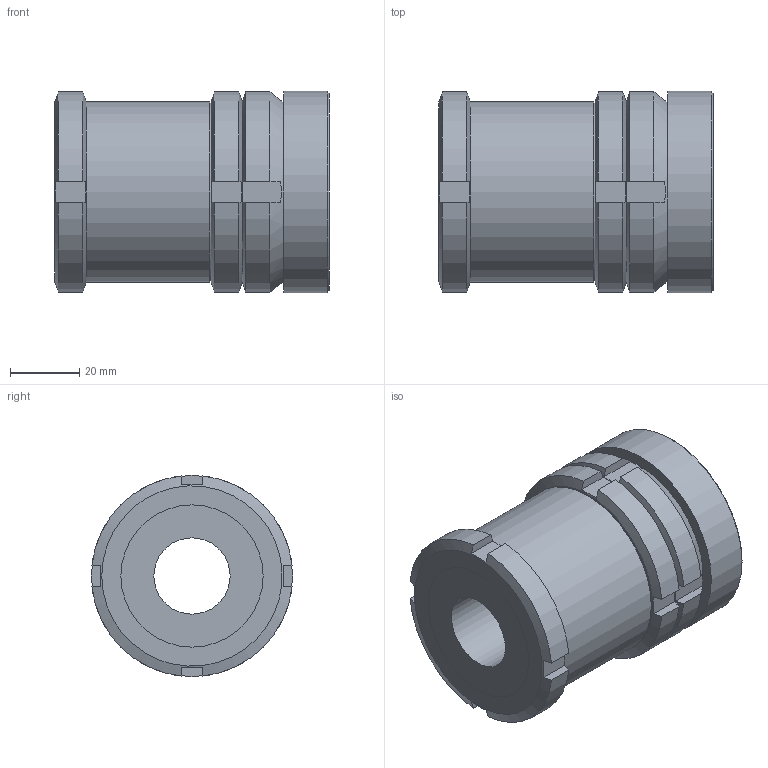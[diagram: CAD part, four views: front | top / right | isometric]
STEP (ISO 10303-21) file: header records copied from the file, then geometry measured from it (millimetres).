
FILE_DESCRIPTION( ( 'STEP AP203' ), '1' );
FILE_NAME( 'C:/Temp/Ganter_Step_05_03_2020/data/3_2/gn350_5/gn350_5_st/Levelling set GN 350.5-58-22-79-ST (0-0).stp', '2020-03-13T05:28:34', ( 'License CC BY-ND 4.0' ), ( 'CADENAS' ), ' ', 'PARTsolutions', ' ' );
FILE_SCHEMA( ( 'CONFIG_CONTROL_DESIGN' ) );
Length unit declared in the file: millimetre
Products named in the file (5): Levelling set GN 350.5-58-22-79-ST (0-0); _Levelling set GN 350.5-58-22-79-ST-G; _Levelling set GN 350.5-58-22-79-ST-K; _Levelling set GN 350.5-58-22-79-ST-P(0); _Levelling set GN 350.5-58-22-53-ST-KM
Assembly tree (4 placements, depth 2):
  Levelling set GN 350.5-58-22-79-ST (0-0)
    _Levelling set GN 350.5-58-22-79-ST-G
    _Levelling set GN 350.5-58-22-79-ST-K
    _Levelling set GN 350.5-58-22-79-ST-P(0)
    _Levelling set GN 350.5-58-22-53-ST-KM
Bounding box: 79 x 58 x 58 mm (x, y, z)
Volume: 154576.6 mm3; surface area: 47723.4 mm2
Topology: 4 solids, 4 shells, 85 faces, 211 edges, 140 vertices
Faces by surface type: plane 50, cylinder 24, cone 9, sphere 2
Full cylindrical faces by diameter (mm): 22 x1, 31.5 x1, 33.485 x1, 34.5 x1, 38.376 x1, 38.917 x1, 39 x1, 40 x1, 41 x2, 52 x1, 58 x1
Entity records: 2696 total; most frequent: CARTESIAN_POINT 698, DIRECTION 368, ORIENTED_EDGE 356, EDGE_CURVE 178, AXIS2_PLACEMENT_3D 160, VERTEX_POINT 130, EDGE_LOOP 122, FACE_OUTER_BOUND 99
